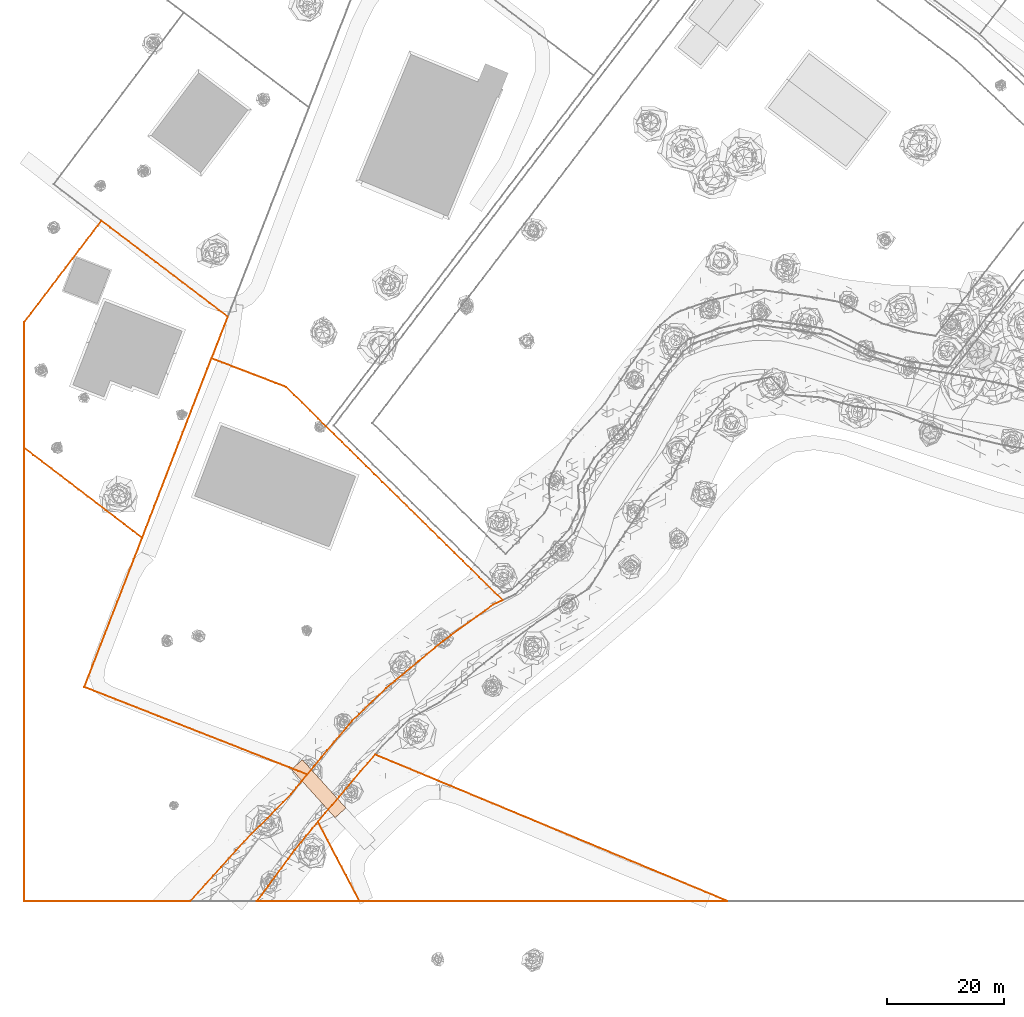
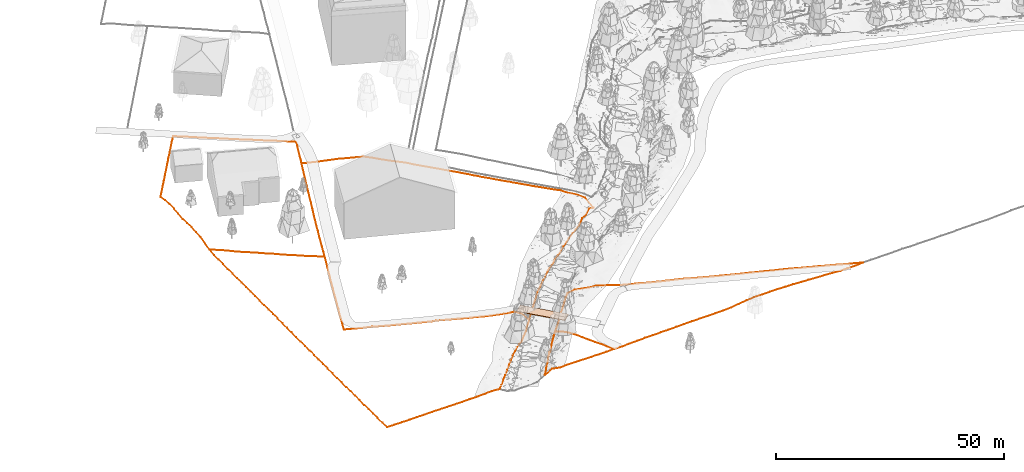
# Not in any storey, part 13 of 88: 6 geographic elements.
"""IFC4 model written with IfcOpenShell, lengths in metres."""

from ifc_helpers import new_model, entity, si_unit, frame, origin_with_axes, place, context, subcontext, project, spatial, polyline, outline, extrude, element, save


model = new_model("IFC4")

# Units and contexts
model_context = context("Model", 3, precision=1e-05, world=origin_with_axes())
body_context = subcontext(model_context, "Body", "Model", "MODEL_VIEW")
ifc_project = project(units=[si_unit("LENGTHUNIT", "METRE"), si_unit("AREAUNIT", "SQUARE_METRE"), si_unit("VOLUMEUNIT", "CUBIC_METRE"), si_unit("PLANEANGLEUNIT", "RADIAN")], contexts=[model_context])

# Sites
site_1_placement = place(None, origin_with_axes())
site_1 = spatial("IfcSite", under=ifc_project, at=site_1_placement, Name="CH907857693633", CompositionType="ELEMENT")
site_2_placement = place(None, origin_with_axes())
site_2 = spatial("IfcSite", under=site_1, at=site_2_placement, Name="Roads", CompositionType="ELEMENT")

# Geographic element
geographic_element_1_placement = place(None, origin_with_axes())
element("IfcGeographicElement", 1, at=geographic_element_1_placement, inside=site_2, Name="Road_weg", ObjectType="ROAD", PredefinedType="USERDEFINED", context=body_context, shape_type="SweptSolid", body=[
    extrude(outline(polyline([(47.7011816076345, 24.2552482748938), (55.1771816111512, 15.9672482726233), (53.3208184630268, 14.2927585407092), (45.8448184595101, 22.5807585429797), (47.7011816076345, 24.2552482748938)])), frame((0.0, 0.0, 3.01448779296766), z_axis=(0.0, 0.0, 1.0), x_axis=(1.0, 0.0, 0.0)), (0.0, 0.0, 1.0), 0.15),
])

# Site
site_3_placement = place(None, origin_with_axes())
site_3 = spatial("IfcSite", under=site_1, at=site_3_placement, Name="Parcels", CompositionType="ELEMENT")

# Geographic elements
geographic_element_2_placement = place(None, origin_with_axes())
element("IfcGeographicElement", 2, at=geographic_element_2_placement, inside=site_3, Name="Parcel_CH327864365790", ObjectType="PARCEL", PredefinedType="USERDEFINED", context=body_context, shape_type="Curve3D", body=[
    entity("IfcIndexedPolyCurve", entity("IfcCartesianPointList3D", [[40.7215144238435, 1.00814625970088, 1.5634887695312], [41.8591144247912, 2.55674626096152, 1.8642700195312], [42.9967144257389, 4.10534626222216, 1.5161254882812], [44.1343144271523, 5.65394626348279, 1.65180664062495], [45.2719144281, 7.20254626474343, 1.7089965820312], [46.4095144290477, 8.75114626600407, 0.433178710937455], [47.4050144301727, 9.96239626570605, 1.14118652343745], [48.4005144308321, 11.1736462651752, 1.46052246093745], [49.3960144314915, 12.3848962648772, 1.39558105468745], [50.3915144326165, 13.5961462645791, 1.49213867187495], [51.2160144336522, 12.0266462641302, 2.23811035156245], [52.0405144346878, 10.4571462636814, 2.5904663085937], [52.8650144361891, 8.88764626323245, 2.71284179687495], [53.6895144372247, 7.31814626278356, 2.69599609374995], [54.4584195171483, 5.85451701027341, 2.6515014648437], [55.2273245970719, 4.39088775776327, 2.63117675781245], [55.9962296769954, 2.92725850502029, 2.6604125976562], [56.765134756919, 1.46362925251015, 2.64985351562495], [57.5340398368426, 0.0, 2.64045410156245], [55.5746824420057, 0.0, 2.58112792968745], [53.6153250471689, 0.0, 2.5539672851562], [51.6559676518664, 0.0, 2.5830200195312], [49.6966102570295, 0.0, 2.55537109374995], [47.7372528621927, 0.0, 2.6163452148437], [45.7778954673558, 0.0, 2.58686523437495], [43.8185380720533, 0.0, 2.49580078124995], [41.8591806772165, 0.0, 2.83063964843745], [39.8998232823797, 0.0, 1.7606323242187], [40.7215144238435, 1.00814625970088, 1.5634887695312]]), None, False),
])
geographic_element_3_placement = place(None, origin_with_axes())
element("IfcGeographicElement", 3, at=geographic_element_3_placement, inside=site_3, Name="Parcel_CH133678576445", ObjectType="PARCEL", PredefinedType="USERDEFINED", context=body_context, shape_type="Curve3D", body=[
    entity("IfcIndexedPolyCurve", entity("IfcCartesianPointList3D", [[20.223514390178, 62.2891462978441, 2.63007812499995], [19.5152286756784, 60.4613605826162, 2.5671508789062], [18.8069429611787, 58.6335748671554, 2.4577758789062], [18.0986572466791, 56.8057891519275, 2.50275878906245], [17.3903715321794, 54.9780034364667, 2.3081176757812], [16.6820858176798, 53.1502177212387, 2.2624633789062], [15.9738001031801, 51.322432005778, 2.24226074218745], [15.2655143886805, 49.49464629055, 2.19257812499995], [14.5572286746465, 47.6668605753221, 2.2031372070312], [13.8489429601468, 45.8390748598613, 2.17280273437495], [13.1406572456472, 44.0112891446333, 2.17939453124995], [12.4323715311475, 42.1835034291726, 2.1018188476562], [11.7240858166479, 40.3557177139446, 2.1386840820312], [11.0158001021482, 38.5279319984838, 2.08442382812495], [10.3075143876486, 36.7001462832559, 2.13972167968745], [12.1137018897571, 35.9912087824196, 2.13593749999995], [13.9198893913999, 35.2822712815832, 2.1373413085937], [15.7260768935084, 34.5733337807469, 2.2215698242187], [17.5322643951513, 33.8643962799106, 2.1748168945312], [19.3384518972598, 33.1554587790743, 2.1623657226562], [21.1446393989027, 32.4465212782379, 2.18195800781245], [22.9508269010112, 31.7375837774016, 2.19208984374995], [24.7570144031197, 31.0286462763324, 2.22248535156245], [26.5632019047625, 30.3197087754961, 2.24531249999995], [28.3693894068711, 29.6107712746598, 2.2877319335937], [30.1755769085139, 28.9018337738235, 2.39240722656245], [31.9817644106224, 28.1928962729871, 2.3700073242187], [33.7879519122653, 27.4839587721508, 2.36433105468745], [35.5941394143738, 26.7750212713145, 2.34602050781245], [37.4003269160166, 26.0660837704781, 2.39936523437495], [39.2065144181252, 25.3571462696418, 2.4123657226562], [40.7630144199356, 24.7461462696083, 2.46894531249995], [42.3195144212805, 24.1351462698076, 2.5804565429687], [43.8760144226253, 23.5241462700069, 2.6886108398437], [45.4325144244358, 22.9131462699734, 2.9337280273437], [46.9890144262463, 22.3021462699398, 2.2929809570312], [48.5455144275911, 21.6911462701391, 0.334667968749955], [47.621181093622, 20.5688129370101, 0.460400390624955], [46.6968477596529, 19.4464796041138, 0.660839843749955], [45.7725144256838, 18.3241462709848, 0.373791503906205], [44.4275144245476, 16.9618129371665, 0.415417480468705], [43.0825144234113, 15.5994796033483, 0.250561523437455], [41.7375144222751, 14.2371462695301, 0.842785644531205], [40.3925144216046, 12.8748129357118, 1.28193359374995], [39.0475144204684, 11.5124796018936, 1.62507324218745], [37.7025144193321, 10.1501462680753, 1.6742065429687], [36.3869041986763, 8.70012537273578, 1.6710327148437], [35.0712939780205, 7.2501044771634, 1.9388549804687], [33.7556837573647, 5.80008358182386, 1.75397949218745], [32.440073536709, 4.35006268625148, 1.75422363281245], [31.1244633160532, 2.90004179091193, 1.8956420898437], [29.8088530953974, 1.45002089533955, 1.84345703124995], [28.4932428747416, 0.0, 2.05915527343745], [26.5936933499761, 0.0, 2.2270629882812], [24.694143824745, 0.0, 2.09931640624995], [22.7945942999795, 0.0, 2.01984863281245], [20.8950447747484, 0.0, 1.9912231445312], [18.9954952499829, 0.0, 1.94855957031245], [17.0959457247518, 0.0, 1.9483764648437], [15.1963961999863, 0.0, 1.93952636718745], [13.2968466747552, 0.0, 1.94843749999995], [11.3972971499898, 0.0, 1.95014648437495], [9.49774762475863, 0.0, 1.9030883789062], [7.59819809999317, 0.0, 1.8745239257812], [5.69864857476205, 0.0, 1.84626464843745], [3.79909904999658, 0.0, 1.82441406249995], [1.89954952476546, 0.0, 1.8401000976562], [0.0, 0.0, 1.85053710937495], [0.0, 1.99278740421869, 1.83674316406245], [0.0, 3.98557480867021, 1.87141113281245], [0.0, 5.9783622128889, 1.8040893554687], [0.0, 7.97114961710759, 1.8106811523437], [0.0, 9.9639370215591, 1.78059082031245], [0.0, 11.9567244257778, 1.80183105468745], [0.0, 13.9495118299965, 1.78779296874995], [0.0, 15.942299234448, 1.7830932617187], [0.0, 17.9350866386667, 1.7663696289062], [0.0, 19.9278740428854, 1.7773559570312], [0.0, 21.9206614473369, 1.73762207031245], [0.0, 23.9134488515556, 1.81599121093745], [0.0, 25.9062362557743, 1.84077148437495], [0.0, 27.8990236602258, 1.7895629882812], [0.0, 29.8918110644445, 1.7970092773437], [0.0, 31.8845984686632, 1.84858398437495], [0.0, 33.8773858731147, 1.8282592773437], [0.0, 35.8701732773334, 1.8480346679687], [0.0, 37.8629606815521, 1.80549316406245], [0.0, 39.8557480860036, 1.82575683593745], [0.0, 41.8485354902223, 1.8580444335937], [0.0, 43.841322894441, 1.8728149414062], [0.0, 45.8341102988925, 1.91645507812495], [0.0, 47.8268977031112, 1.93073730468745], [0.0, 49.8196851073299, 1.9203002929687], [0.0, 51.8124725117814, 1.89020996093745], [0.0, 53.8052599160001, 1.8559692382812], [0.0, 55.7980473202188, 1.8929565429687], [0.0, 57.7908347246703, 1.88361816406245], [0.0, 59.783622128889, 1.88752441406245], [0.0, 61.7764095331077, 1.89289550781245], [0.0, 63.7691969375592, 1.90021972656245], [0.0, 65.7619843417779, 1.89887695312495], [0.0, 67.7547717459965, 1.9342163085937], [0.0, 69.7475591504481, 1.9016235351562], [0.0, 71.7403465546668, 1.97419433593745], [0.0, 73.7331339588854, 1.9560668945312], [0.0, 75.725921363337, 2.00239257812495], [0.0, 77.7187087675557, 2.2186401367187], [1.5556549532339, 76.5318193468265, 2.34296874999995], [3.11130990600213, 75.3449299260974, 2.32331542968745], [4.66696485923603, 74.1580405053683, 2.2544067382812], [6.22261981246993, 72.9711510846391, 2.2590454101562], [7.77827476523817, 71.78426166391, 2.3530395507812], [9.33392971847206, 70.5973722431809, 2.3171508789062], [10.889584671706, 69.4104828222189, 2.4001586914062], [12.4452396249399, 68.2235934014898, 2.34699707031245], [14.0008945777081, 67.0367039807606, 2.37092285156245], [15.556549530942, 65.8498145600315, 2.4471557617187], [17.1122044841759, 64.6629251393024, 2.44160156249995], [18.6678594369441, 63.4760357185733, 2.55854492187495], [20.223514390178, 62.2891462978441, 2.63007812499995]]), None, False),
])
geographic_element_4_placement = place(None, origin_with_axes())
element("IfcGeographicElement", 4, at=geographic_element_4_placement, inside=site_3, Name="Parcel_CH156436785731", ObjectType="PARCEL", PredefinedType="USERDEFINED", context=body_context, shape_type="Curve3D", body=[
    entity("IfcIndexedPolyCurve", entity("IfcCartesianPointList3D", [[44.9745144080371, 88.1691463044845, 5.04316406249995], [46.3295144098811, 86.8215463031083, 5.0843627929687], [47.6845144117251, 85.4739463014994, 5.0493286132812], [49.0395144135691, 84.1263463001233, 5.03400878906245], [50.3945144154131, 82.7787462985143, 5.0859497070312], [51.7495144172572, 81.4311462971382, 5.1327026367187], [53.1334033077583, 80.0694796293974, 4.9958618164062], [54.5172921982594, 78.7078129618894, 4.93439941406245], [55.9011810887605, 77.3461462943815, 4.8762329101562], [57.2850699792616, 75.9844796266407, 4.8083618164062], [58.6689588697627, 74.6228129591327, 4.70612792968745], [60.0528477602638, 73.2611462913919, 4.6648071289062], [61.4367366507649, 71.899479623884, 4.56403808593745], [62.8206255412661, 70.5378129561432, 4.4569213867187], [64.2045144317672, 69.1761462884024, 4.34138183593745], [65.5884033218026, 67.8144796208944, 4.28437499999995], [66.9722922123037, 66.4528129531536, 4.18867187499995], [68.3561811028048, 65.0911462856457, 4.1617553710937], [69.740069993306, 63.7294796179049, 4.0837524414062], [71.1239588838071, 62.3678129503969, 4.0316284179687], [72.5078477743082, 61.0061462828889, 3.9375122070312], [73.8917366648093, 59.6444796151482, 3.92634277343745], [75.2756255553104, 58.2828129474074, 3.8681762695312], [76.6595144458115, 56.9211462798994, 3.8908813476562], [78.0127644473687, 55.5893962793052, 3.5207641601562], [79.3660144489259, 54.2576462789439, 3.4161499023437], [80.7192644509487, 52.9258962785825, 2.8881958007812], [82.0725144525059, 51.5941462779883, 0.550610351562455], [80.4915144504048, 50.8641462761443, 1.3358276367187], [79.0516811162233, 49.8196462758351, 0.649609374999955], [77.6118477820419, 48.7751462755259, 1.10639648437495], [76.1720144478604, 47.7306462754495, 0.254345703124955], [74.7321811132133, 46.6861462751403, 0.228833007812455], [73.2923477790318, 45.6416462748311, 0.295727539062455], [71.8525144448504, 44.5971462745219, 0.282727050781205], [70.4640858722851, 43.4470034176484, 0.289440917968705], [69.0756572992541, 42.2968605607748, 0.366284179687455], [67.6872287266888, 41.1467177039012, 0.225964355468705], [66.2988001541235, 39.9965748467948, 0.361523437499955], [64.9103715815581, 38.8464319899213, 0.406994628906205], [63.5219430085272, 37.6962891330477, 0.168469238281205], [62.1335144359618, 36.5461462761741, 0.424511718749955], [60.9623144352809, 35.4229462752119, 0.435864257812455], [59.7911144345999, 34.2997462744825, 0.317883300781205], [58.6199144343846, 33.1765462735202, 0.388439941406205], [57.4487144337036, 32.0533462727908, 0.253124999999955], [56.2775144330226, 30.9301462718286, 0.204724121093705], [55.2107144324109, 29.6647462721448, 0.576062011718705], [54.1439144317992, 28.3993462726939, 0.509350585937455], [53.0771144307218, 27.1339462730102, 0.472668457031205], [52.0103144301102, 25.8685462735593, 0.478710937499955], [50.9435144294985, 24.6031462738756, 0.295300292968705], [49.7445144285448, 23.1471462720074, 0.738110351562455], [48.5455144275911, 21.6911462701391, 0.334667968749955], [46.9890144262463, 22.3021462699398, 2.2929809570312], [45.4325144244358, 22.9131462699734, 2.9337280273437], [43.8760144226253, 23.5241462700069, 2.6886108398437], [42.3195144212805, 24.1351462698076, 2.5804565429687], [40.7630144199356, 24.7461462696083, 2.46894531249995], [39.2065144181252, 25.3571462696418, 2.4123657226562], [37.4003269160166, 26.0660837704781, 2.39936523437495], [35.5941394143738, 26.7750212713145, 2.34602050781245], [33.7879519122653, 27.4839587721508, 2.36433105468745], [31.9817644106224, 28.1928962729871, 2.3700073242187], [30.1755769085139, 28.9018337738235, 2.39240722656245], [28.3693894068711, 29.6107712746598, 2.2877319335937], [26.5632019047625, 30.3197087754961, 2.24531249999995], [24.7570144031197, 31.0286462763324, 2.22248535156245], [22.9508269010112, 31.7375837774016, 2.19208984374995], [21.1446393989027, 32.4465212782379, 2.18195800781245], [19.3384518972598, 33.1554587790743, 2.1623657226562], [17.5322643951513, 33.8643962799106, 2.1748168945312], [15.7260768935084, 34.5733337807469, 2.2215698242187], [13.9198893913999, 35.2822712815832, 2.1373413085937], [12.1137018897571, 35.9912087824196, 2.13593749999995], [10.3075143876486, 36.7001462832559, 2.13972167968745], [11.0158001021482, 38.5279319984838, 2.08442382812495], [11.7240858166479, 40.3557177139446, 2.1386840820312], [12.4323715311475, 42.1835034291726, 2.1018188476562], [13.1406572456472, 44.0112891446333, 2.17939453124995], [13.8489429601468, 45.8390748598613, 2.17280273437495], [14.5572286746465, 47.6668605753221, 2.2031372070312], [15.2655143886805, 49.49464629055, 2.19257812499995], [15.9738001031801, 51.322432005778, 2.24226074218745], [16.6820858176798, 53.1502177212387, 2.2624633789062], [17.3903715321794, 54.9780034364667, 2.3081176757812], [18.0986572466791, 56.8057891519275, 2.50275878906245], [18.8069429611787, 58.6335748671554, 2.4577758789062], [19.5152286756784, 60.4613605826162, 2.5671508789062], [20.223514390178, 62.2891462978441, 2.63007812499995], [20.9230438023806, 64.1017345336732, 2.57648925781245], [21.6225732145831, 65.9143227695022, 2.59553222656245], [22.3221026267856, 67.7269110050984, 2.6074340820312], [23.0216320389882, 69.5394992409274, 2.67280273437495], [23.721161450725, 71.3520874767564, 2.7459838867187], [24.4206908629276, 73.1646757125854, 2.7717407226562], [25.1202202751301, 74.9772639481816, 2.95417480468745], [25.8197496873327, 76.7898521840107, 3.12397460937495], [26.5192790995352, 78.6024404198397, 3.32136230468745], [27.2188085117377, 80.4150286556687, 3.6250122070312], [27.9183379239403, 82.2276168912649, 3.66877441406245], [28.6178673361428, 84.0402051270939, 3.92463378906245], [29.3173967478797, 85.852793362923, 4.0402954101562], [30.0169261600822, 87.665381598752, 4.20734863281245], [30.7164555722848, 89.4779698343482, 4.44172363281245], [31.4159849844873, 91.2905580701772, 4.65729980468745], [32.1155143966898, 93.1031463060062, 4.77595214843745], [33.9525143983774, 92.3982891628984, 4.7761352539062], [35.7895144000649, 91.6934320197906, 4.8407104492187], [37.6265144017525, 90.9885748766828, 4.95197753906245], [39.4635144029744, 90.2837177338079, 5.08784179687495], [41.300514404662, 89.5788605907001, 5.0461547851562], [43.1375144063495, 88.8740034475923, 5.0752075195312], [44.9745144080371, 88.1691463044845, 5.04316406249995]]), None, False),
])
geographic_element_5_placement = place(None, origin_with_axes())
element("IfcGeographicElement", 5, at=geographic_element_5_placement, inside=site_3, Name="Parcel_CH333678576474", ObjectType="PARCEL", PredefinedType="USERDEFINED", context=body_context, shape_type="Curve3D", body=[
    entity("IfcIndexedPolyCurve", entity("IfcCartesianPointList3D", [[67.5765144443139, 22.0451462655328, 2.7835815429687], [69.4049180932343, 21.2849688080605, 2.61433105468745], [71.2333217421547, 20.5247913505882, 2.54206542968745], [73.061725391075, 19.7646138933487, 2.57563476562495], [74.8901290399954, 19.0044364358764, 2.6087768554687], [76.7185326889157, 18.2442589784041, 2.6029174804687], [78.5469363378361, 17.4840815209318, 2.6682250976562], [80.3753399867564, 16.7239040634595, 2.74238281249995], [82.2037436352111, 15.9637266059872, 2.8758666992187], [84.0321472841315, 15.2035491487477, 2.9380004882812], [85.8605509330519, 14.4433716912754, 2.9138305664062], [87.6889545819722, 13.6831942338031, 2.9395874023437], [89.5173582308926, 12.9230167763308, 2.9578979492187], [91.3457618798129, 12.1628393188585, 3.02412109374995], [93.1741655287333, 11.4026618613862, 3.07343749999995], [95.0025691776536, 10.6424844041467, 3.1294067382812], [96.830972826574, 9.88230694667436, 3.21955566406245], [98.6593764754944, 9.12212948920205, 3.25007324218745], [100.487780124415, 8.36195203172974, 3.3422973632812], [102.316183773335, 7.60177457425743, 3.3794067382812], [104.144587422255, 6.84159711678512, 3.4757202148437], [105.972991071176, 6.08141965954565, 3.53303222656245], [107.80139471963, 5.32124220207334, 3.52094726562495], [109.629798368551, 4.56106474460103, 3.5564086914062], [111.458202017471, 3.80088728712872, 3.57709960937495], [113.286605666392, 3.04070982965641, 3.60786132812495], [115.115009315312, 2.2805323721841, 3.63105468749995], [116.943412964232, 1.52035491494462, 3.6203735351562], [118.771816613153, 0.760177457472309, 3.68757324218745], [120.600220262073, 0.0, 3.70441894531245], [118.629402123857, 0.0, 3.5810668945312], [116.658583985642, 0.0, 3.53474121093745], [114.687765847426, 0.0, 3.53474121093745], [112.716947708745, 0.0, 3.66462402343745], [110.746129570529, 0.0, 3.75715332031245], [108.775311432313, 0.0, 3.8154418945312], [106.804493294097, 0.0, 3.9039428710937], [104.833675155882, 0.0, 4.0108764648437], [102.862857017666, 0.0, 4.07294921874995], [100.892038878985, 0.0, 4.11982421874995], [98.9212207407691, 0.0, 4.1655395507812], [96.9504026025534, 0.0, 4.15949707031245], [94.9795844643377, 0.0, 4.14362792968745], [93.008766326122, 0.0, 4.10395507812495], [91.0379481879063, 0.0, 3.94025878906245], [89.0671300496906, 0.0, 3.67744140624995], [87.0963119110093, 0.0, 3.4171264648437], [85.1254937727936, 0.0, 3.27363281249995], [83.1546756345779, 0.0, 3.2248657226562], [81.1838574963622, 0.0, 3.1872680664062], [79.2130393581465, 0.0, 3.16767578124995], [77.2422212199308, 0.0, 3.1486938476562], [75.2714030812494, 0.0, 3.10749511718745], [73.3005849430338, 0.0, 3.05805664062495], [71.3297668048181, 0.0, 2.9674194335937], [69.3589486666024, 0.0, 2.9599731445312], [67.3881305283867, 0.0, 2.9090698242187], [65.417312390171, 0.0, 2.86970214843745], [63.4464942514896, 0.0, 2.79304199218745], [61.4756761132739, 0.0, 2.71308593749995], [59.5048579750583, 0.0, 2.62104492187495], [57.5340398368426, 0.0, 2.64045410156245], [56.765134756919, 1.46362925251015, 2.64985351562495], [55.9962296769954, 2.92725850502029, 2.6604125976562], [55.2273245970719, 4.39088775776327, 2.63117675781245], [54.4584195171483, 5.85451701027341, 2.6515014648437], [53.6895144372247, 7.31814626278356, 2.69599609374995], [52.8650144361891, 8.88764626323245, 2.71284179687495], [52.0405144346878, 10.4571462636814, 2.5904663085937], [51.2160144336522, 12.0266462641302, 2.23811035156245], [50.3915144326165, 13.5961462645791, 1.49213867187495], [51.6156394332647, 15.0363962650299, 1.35236816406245], [52.8397644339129, 16.4766462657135, 1.21174316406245], [54.0638894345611, 17.9168962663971, 1.08344726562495], [55.2880144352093, 19.3571462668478, 1.53645019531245], [56.5121394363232, 20.7973962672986, 1.4460571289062], [57.7362644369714, 22.2376462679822, 1.48237304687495], [58.9603894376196, 23.6778962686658, 1.6186645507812], [60.1845144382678, 25.1181462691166, 1.3946655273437], [61.6629144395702, 24.5035462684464, 2.1942260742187], [63.1413144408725, 23.8889462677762, 2.3403442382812], [64.6197144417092, 23.2743462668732, 2.4980590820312], [66.0981144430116, 22.659746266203, 2.87946777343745], [67.5765144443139, 22.0451462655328, 2.7835815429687]]), None, False),
])
geographic_element_6_placement = place(None, origin_with_axes())
element("IfcGeographicElement", 6, at=geographic_element_6_placement, inside=site_3, Name="Parcel_CH127864365761", ObjectType="PARCEL", PredefinedType="USERDEFINED", context=body_context, shape_type="Curve3D", body=[
    entity("IfcIndexedPolyCurve", entity("IfcCartesianPointList3D", [[20.223514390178, 62.2891462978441, 2.63007812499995], [18.6678594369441, 63.4760357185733, 2.55854492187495], [17.1122044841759, 64.6629251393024, 2.44160156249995], [15.556549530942, 65.8498145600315, 2.4471557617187], [14.0008945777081, 67.0367039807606, 2.37092285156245], [12.4452396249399, 68.2235934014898, 2.34699707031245], [10.889584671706, 69.4104828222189, 2.4001586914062], [9.33392971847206, 70.5973722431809, 2.3171508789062], [7.77827476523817, 71.78426166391, 2.3530395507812], [6.22261981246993, 72.9711510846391, 2.2590454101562], [4.66696485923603, 74.1580405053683, 2.2544067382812], [3.11130990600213, 75.3449299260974, 2.32331542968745], [1.5556549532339, 76.5318193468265, 2.34296874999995], [0.0, 77.7187087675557, 2.2186401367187], [0.0, 79.6815291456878, 2.6800659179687], [0.0, 81.64434952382, 3.2658813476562], [0.0, 83.607169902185, 3.3187377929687], [0.0, 85.5699902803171, 3.5427368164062], [0.0, 87.5328106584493, 3.35773925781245], [0.0, 89.4956310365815, 3.33503417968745], [0.0, 91.4584514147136, 3.54047851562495], [0.0, 93.4212717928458, 3.73688964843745], [0.0, 95.3840921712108, 3.70966796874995], [0.0, 97.346912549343, 3.5322387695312], [0.0, 99.3097329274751, 3.2290161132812], [1.18755143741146, 100.871374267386, 3.2489135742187], [2.37510287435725, 102.43301560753, 3.39558105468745], [3.56265431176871, 103.994656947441, 3.4475219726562], [4.75020574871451, 105.556298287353, 3.6776245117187], [5.93775718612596, 107.117939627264, 3.74177246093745], [7.12530862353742, 108.679580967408, 3.83234863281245], [8.31286006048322, 110.241222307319, 4.0180786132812], [9.50041149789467, 111.80286364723, 4.0909545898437], [10.6879629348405, 113.364504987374, 4.22553710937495], [11.8755143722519, 114.926146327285, 4.3100708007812], [12.5545143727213, 115.819146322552, 4.29414062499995], [13.2335143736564, 116.712146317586, 4.3171508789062], [14.7829429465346, 115.534217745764, 4.4079711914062], [16.3323715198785, 114.356289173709, 4.46333007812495], [17.8818000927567, 113.178360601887, 4.48371582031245], [19.431228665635, 112.000432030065, 4.5578735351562], [20.9806572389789, 110.82250345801, 4.63435058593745], [22.5300858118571, 109.644574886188, 4.67951660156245], [24.079514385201, 108.466646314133, 4.74458007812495], [25.6289429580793, 107.288717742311, 4.78352050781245], [27.1783715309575, 106.110789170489, 4.89863281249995], [28.7278001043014, 104.932860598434, 4.94758300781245], [30.2772286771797, 103.754932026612, 5.04609374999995], [31.8266572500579, 102.57700345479, 5.11604003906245], [33.3760858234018, 101.399074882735, 5.16865234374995], [34.9255143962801, 100.221146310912, 5.2085083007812], [34.3125143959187, 98.6486463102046, 5.0986450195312], [33.6995143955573, 97.0761463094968, 4.98713378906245], [33.0865143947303, 95.503646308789, 4.9316528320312], [32.473514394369, 93.9311463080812, 4.8609741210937], [32.1155143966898, 93.1031463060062, 4.77595214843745], [31.4159849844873, 91.2905580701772, 4.65729980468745], [30.7164555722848, 89.4779698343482, 4.44172363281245], [30.0169261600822, 87.665381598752, 4.20734863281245], [29.3173967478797, 85.852793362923, 4.0402954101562], [28.6178673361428, 84.0402051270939, 3.92463378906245], [27.9183379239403, 82.2276168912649, 3.66877441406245], [27.2188085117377, 80.4150286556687, 3.6250122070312], [26.5192790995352, 78.6024404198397, 3.32136230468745], [25.8197496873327, 76.7898521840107, 3.12397460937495], [25.1202202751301, 74.9772639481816, 2.95417480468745], [24.4206908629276, 73.1646757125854, 2.7717407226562], [23.721161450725, 71.3520874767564, 2.7459838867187], [23.0216320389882, 69.5394992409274, 2.67280273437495], [22.3221026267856, 67.7269110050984, 2.6074340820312], [21.6225732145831, 65.9143227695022, 2.59553222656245], [20.9230438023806, 64.1017345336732, 2.57648925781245], [20.223514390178, 62.2891462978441, 2.63007812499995]]), None, False),
])

save(model, "model.ifc")
